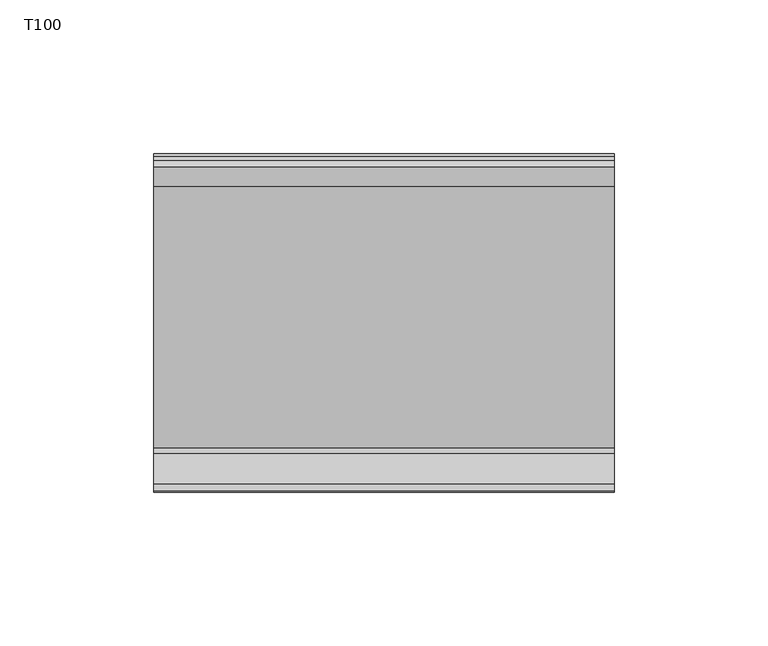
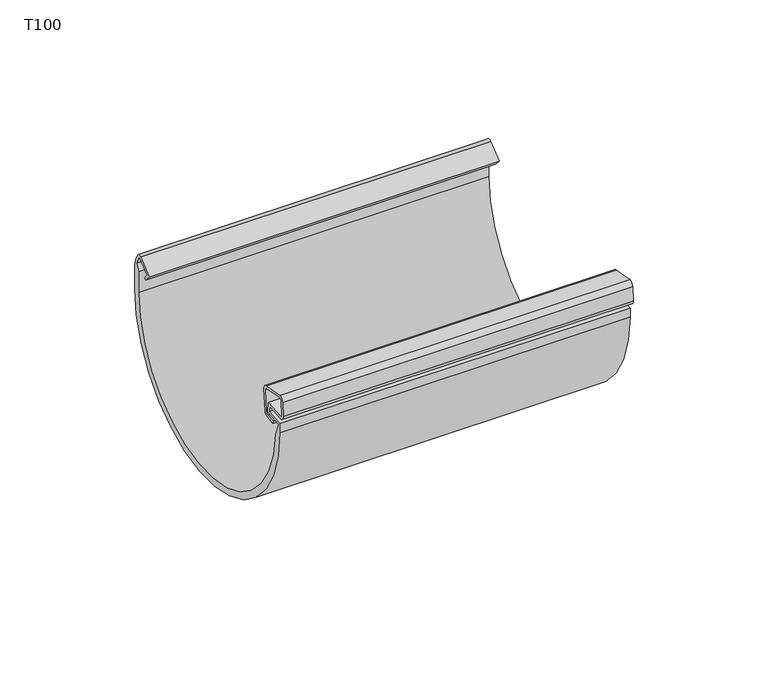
"""IFC4 building model written with IfcOpenShell, lengths in millimetres: proxy geometry, GROVIK_Gutter_Joint : T100."""

from ifc_helpers import new_model, si_unit, point, frame, frame_2d, origin, place, context, project, spatial, polyline, circle_curve, trimmed, segment, composite_curve, outline, extrude, source, transform, mapped, element, save


def t100_925c021a(model_context):
    return source(origin(), model_context, "Body", "SweptSolid", [
        extrude(outline(composite_curve([segment(polyline([(0.0, -16.3578028), (0.0, -6.8001248), (1.5, -3.8562091), (0.0, -0.5)]), True, "CONTINUOUS"), segment(trimmed(circle_curve(frame_2d((-0.5, -0.5)), 0.5), [point((0.0, -0.5))], [point((-0.8213938, -0.1169778))], True, "CARTESIAN"), True, "CONTINUOUS"), segment(polyline([(-0.8213938, -0.1169778), (-6.2279844, -4.6536459), (-4.2996216, -6.9517793), (-5.065666, -7.5945669), (-7.6368164, -4.5303891), (-1.4988465, 0.6199792)]), True, "CONTINUOUS"), segment(trimmed(circle_curve(frame_2d((-0.5346651, -0.5290875)), 1.5), [point((-1.4988465, 0.6199792))], [point((0.8347845, 0.0829645))], False, "CARTESIAN"), True, "CONTINUOUS"), segment(polyline([(0.8347845, 0.0829645), (2.0687409, -2.6779791)]), True, "CONTINUOUS"), segment(trimmed(circle_curve(frame_2d((-7.7, -7.04395)), 10.7), [point((2.0687409, -2.6779791))], [point((3.0, -7.04395))], False, "CARTESIAN"), True, "CONTINUOUS"), segment(polyline([(3.0, -7.04395), (3.0, -16.3578028)]), True, "CONTINUOUS"), segment(trimmed(circle_curve(frame_2d((-50.9, -16.3578028)), 53.9), [point((3.0, -16.3578028))], [point((-104.8, -16.3578028))], False, "CARTESIAN"), True, "CONTINUOUS"), segment(polyline([(-104.8, -16.3578028), (-104.8, -12.1730111), (-96.8403631, -11.4766331), (-97.0582525, -8.9861463), (-105.1832388, -9.6969905)]), True, "CONTINUOUS"), segment(trimmed(circle_curve(frame_2d((-105.2343723, -7.6976443)), 2.0), [point((-105.1832388, -9.6969905))], [point((-107.2267617, -7.5233328))], False, "CARTESIAN"), True, "CONTINUOUS"), segment(polyline([(-107.2267617, -7.5233328), (-106.6847083, -1.3276334)]), True, "CONTINUOUS"), segment(trimmed(circle_curve(frame_2d((-104.6923189, -1.5019449)), 2.0), [point((-106.6847083, -1.3276334))], [point((-104.4671254, 0.4853366))], False, "CARTESIAN"), True, "CONTINUOUS"), segment(polyline([(-104.4671254, 0.4853366), (-94.5834374, -1.2574242)]), True, "CONTINUOUS"), segment(trimmed(circle_curve(frame_2d((-94.9307338, -3.2270397)), 2.0), [point((-94.5834374, -1.2574242))], [point((-92.9383444, -3.4013512))], False, "CARTESIAN"), True, "CONTINUOUS"), segment(polyline([(-92.9383444, -3.4013512), (-93.7784894, -13.0042525)]), True, "CONTINUOUS"), segment(trimmed(circle_curve(frame_2d((-95.7708788, -12.829941)), 2.0), [point((-93.7784894, -13.0042525))], [point((-95.5965673, -14.8223304))], False, "CARTESIAN"), True, "CONTINUOUS"), segment(polyline([(-95.5965673, -14.8223304), (-99.5813461, -15.1709534), (-99.6685018, -14.1747587), (-95.683723, -13.8261357)]), True, "CONTINUOUS"), segment(trimmed(circle_curve(frame_2d((-95.7708788, -12.829941)), 1.0), [point((-95.683723, -13.8261357))], [point((-94.7746841, -12.9170968))], True, "CARTESIAN"), True, "CONTINUOUS"), segment(polyline([(-94.7746841, -12.9170968), (-93.9345391, -3.3141955)]), True, "CONTINUOUS"), segment(trimmed(circle_curve(frame_2d((-94.9307338, -3.2270397)), 1.0), [point((-93.9345391, -3.3141955))], [point((-94.7570856, -2.242232))], True, "CARTESIAN"), True, "CONTINUOUS"), segment(polyline([(-94.7570856, -2.242232), (-104.6051631, -0.5057502)]), True, "CONTINUOUS"), segment(trimmed(circle_curve(frame_2d((-104.6923189, -1.5019449)), 1.0), [point((-104.6051631, -0.5057502))], [point((-105.6885136, -1.4147892))], True, "CARTESIAN"), True, "CONTINUOUS"), segment(polyline([(-105.6885136, -1.4147892), (-106.230567, -7.6104885)]), True, "CONTINUOUS"), segment(trimmed(circle_curve(frame_2d((-105.2343723, -7.6976443)), 1.0), [point((-106.230567, -7.6104885))], [point((-105.2343723, -8.6976443))], True, "CARTESIAN"), True, "CONTINUOUS"), segment(polyline([(-105.2343723, -8.6976443), (-96.1492135, -7.9027959), (-95.7570127, -12.385672), (-103.8, -13.0893422), (-101.7443564, -18.7371765)]), True, "CONTINUOUS"), segment(trimmed(circle_curve(frame_2d((-50.9, -16.3578028)), 50.9), [point((-101.7443564, -18.7371765))], [point((0.0, -16.3578028))], True, "CARTESIAN"), True, "CONTINUOUS")], self_intersect=False)), frame((-75.0, 0.0, 0.0), z_axis=(1.0, 0.0, 0.0), x_axis=(0.0, 1.0, 0.0)), (0.0, 0.0, 1.0), 150.0),
    ])


if __name__ == "__main__":
    model = new_model("IFC4")
    model_context = context("Model", 3, world=origin())
    ifc_project = project(units=[si_unit("LENGTHUNIT", "METRE", prefix="MILLI")], contexts=[model_context])
    site = spatial("IfcSite", under=ifc_project)
    building = spatial("IfcBuilding", under=site)
    placement = place(None, origin())
    t100_shape = t100_925c021a(model_context)
    element("IfcBuildingElementProxy", 1, Name="GROVIK_Gutter_Joint : T100", ObjectType="GROVIK_Gutter_Joint : T100", at=placement, inside=building, context=model_context, shape_type="MappedRepresentation", body=[
        mapped(t100_shape, transform((0.0, 0.0, 0.0), x_axis=(1.0, 0.0, 0.0), y_axis=(0.0, 1.0, 0.0), z_axis=(0.0, 0.0, 1.0))),
    ])
    save(model, "model.ifc")
